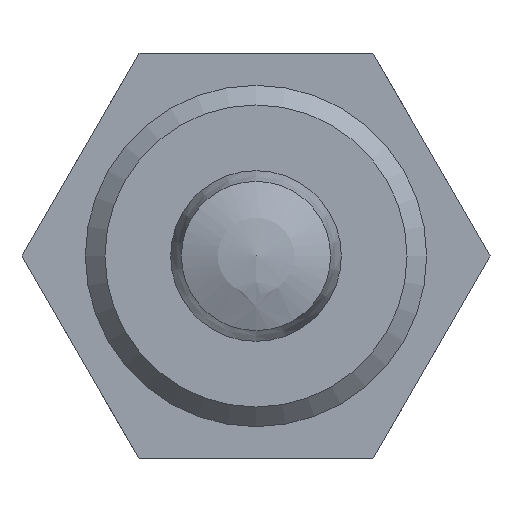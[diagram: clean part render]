
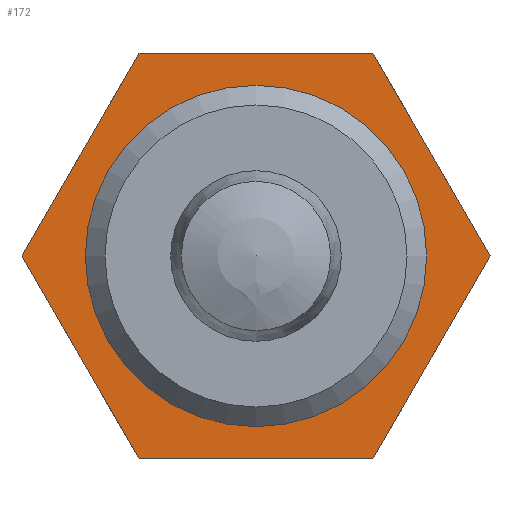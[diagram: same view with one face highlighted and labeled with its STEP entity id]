
A CAD part, front view. The second image highlights one B-rep face of the part: STEP entity #172.
In plain terms, the highlighted planar face has unit normal (0, -1, 0) as drawn and (-1, 0, 0) by its records, which use the part's own axes.
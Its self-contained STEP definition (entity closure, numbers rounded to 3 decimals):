
#172 = ADVANCED_FACE( '', ( #210, #211 ), #212, .T. );
#210 = FACE_BOUND( '', #291, .T. );
#211 = FACE_OUTER_BOUND( '', #292, .T. );
#212 = PLANE( '', #293 );
#291 = EDGE_LOOP( '', ( #381 ) );
#292 = EDGE_LOOP( '', ( #382, #383, #384, #385, #386, #387 ) );
#293 = AXIS2_PLACEMENT_3D( '', #388, #389, #390 );
#381 = ORIENTED_EDGE( '', *, *, #558, .T. );
#382 = ORIENTED_EDGE( '', *, *, #552, .F. );
#383 = ORIENTED_EDGE( '', *, *, #559, .F. );
#384 = ORIENTED_EDGE( '', *, *, #560, .T. );
#385 = ORIENTED_EDGE( '', *, *, #561, .F. );
#386 = ORIENTED_EDGE( '', *, *, #562, .F. );
#387 = ORIENTED_EDGE( '', *, *, #563, .F. );
#388 = CARTESIAN_POINT( '', ( 26., 11.4, 0. ) );
#389 = DIRECTION( '', ( -1., 0., 0. ) );
#390 = DIRECTION( '', ( 0., 0., 1. ) );
#552 = EDGE_CURVE( '', #599, #602, #603, .T. );
#558 = EDGE_CURVE( '', #613, #613, #614, .T. );
#559 = EDGE_CURVE( '', #615, #599, #616, .T. );
#560 = EDGE_CURVE( '', #615, #617, #618, .T. );
#561 = EDGE_CURVE( '', #619, #617, #620, .T. );
#562 = EDGE_CURVE( '', #621, #619, #622, .T. );
#563 = EDGE_CURVE( '', #602, #621, #623, .T. );
#599 = VERTEX_POINT( '', #681 );
#602 = VERTEX_POINT( '', #685 );
#603 = LINE( '', #686, #687 );
#613 = VERTEX_POINT( '', #710 );
#614 = CIRCLE( '', #711, 8. );
#615 = VERTEX_POINT( '', #712 );
#616 = LINE( '', #713, #714 );
#617 = VERTEX_POINT( '', #715 );
#618 = LINE( '', #716, #717 );
#619 = VERTEX_POINT( '', #718 );
#620 = LINE( '', #719, #720 );
#621 = VERTEX_POINT( '', #721 );
#622 = LINE( '', #722, #723 );
#623 = LINE( '', #724, #725 );
#681 = CARTESIAN_POINT( '', ( 26., 0., 10.97 ) );
#685 = CARTESIAN_POINT( '', ( 26., -9.5, 5.485 ) );
#686 = CARTESIAN_POINT( '', ( 26., 0., 10.97 ) );
#687 = VECTOR( '', #844, 1000. );
#710 = CARTESIAN_POINT( '', ( 26., 0., -8. ) );
#711 = AXIS2_PLACEMENT_3D( '', #852, #853, #854 );
#712 = CARTESIAN_POINT( '', ( 26., 9.5, 5.485 ) );
#713 = CARTESIAN_POINT( '', ( 26., 9.5, 5.485 ) );
#714 = VECTOR( '', #855, 1000. );
#715 = CARTESIAN_POINT( '', ( 26., 9.5, -5.485 ) );
#716 = CARTESIAN_POINT( '', ( 26., 9.5, 0. ) );
#717 = VECTOR( '', #856, 1000. );
#718 = CARTESIAN_POINT( '', ( 26., 0., -10.97 ) );
#719 = CARTESIAN_POINT( '', ( 26., 0., -10.97 ) );
#720 = VECTOR( '', #857, 1000. );
#721 = CARTESIAN_POINT( '', ( 26., -9.5, -5.485 ) );
#722 = CARTESIAN_POINT( '', ( 26., -9.5, -5.485 ) );
#723 = VECTOR( '', #858, 1000. );
#724 = CARTESIAN_POINT( '', ( 26., -9.5, 5.485 ) );
#725 = VECTOR( '', #859, 1000. );
#844 = DIRECTION( '', ( 0., -0.866, -0.5 ) );
#852 = CARTESIAN_POINT( '', ( 26., 0., 0. ) );
#853 = DIRECTION( '', ( 1., 0., 0. ) );
#854 = DIRECTION( '', ( 0., 0., -1. ) );
#855 = DIRECTION( '', ( 0., -0.866, 0.5 ) );
#856 = DIRECTION( '', ( 0., 0., -1. ) );
#857 = DIRECTION( '', ( 0., 0.866, 0.5 ) );
#858 = DIRECTION( '', ( 0., 0.866, -0.5 ) );
#859 = DIRECTION( '', ( 0., 0., -1. ) );
